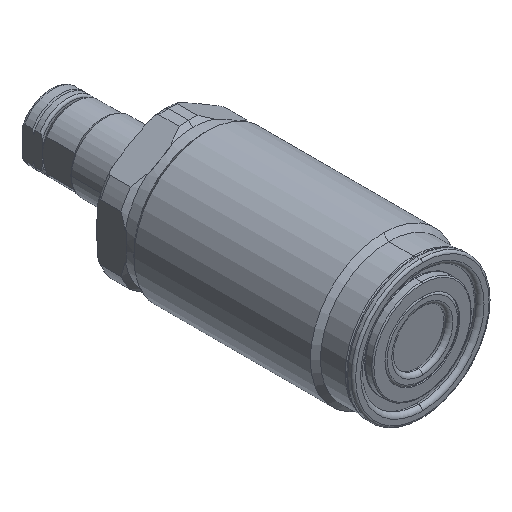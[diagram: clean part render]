
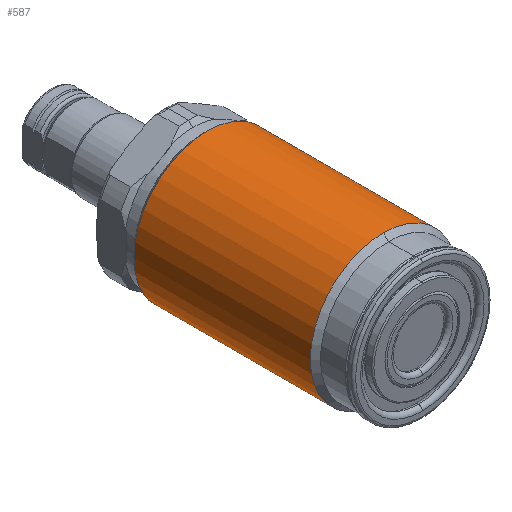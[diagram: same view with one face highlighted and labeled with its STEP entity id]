
A CAD part, isometric view. The second image highlights one B-rep face of the part: STEP entity #587.
In plain terms, the highlighted cylindrical face has radius 13 mm (diameter 26 mm), a full revolution.
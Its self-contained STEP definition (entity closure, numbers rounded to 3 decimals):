
#283=FACE_BOUND('',#952,.T.);
#284=FACE_BOUND('',#953,.T.);
#313=CYLINDRICAL_SURFACE('',#2770,13.);
#361=LINE('',#4078,#469);
#362=LINE('',#4081,#470);
#363=LINE('',#4083,#471);
#364=LINE('',#4088,#472);
#469=VECTOR('',#3200,1.);
#470=VECTOR('',#3203,1.);
#471=VECTOR('',#3204,1.);
#472=VECTOR('',#3207,1.);
#587=ADVANCED_FACE('',(#283,#284),#313,.T.);
#952=EDGE_LOOP('',(#1168,#1169,#1170,#1171,#1172,#1173));
#953=EDGE_LOOP('',(#1174,#1175,#1176,#1177,#1178,#1179));
#1168=ORIENTED_EDGE('',*,*,#2153,.T.);
#1169=ORIENTED_EDGE('',*,*,#2154,.T.);
#1170=ORIENTED_EDGE('',*,*,#2154,.F.);
#1171=ORIENTED_EDGE('',*,*,#2155,.T.);
#1172=ORIENTED_EDGE('',*,*,#2156,.T.);
#1173=ORIENTED_EDGE('',*,*,#2156,.F.);
#1174=ORIENTED_EDGE('',*,*,#2157,.T.);
#1175=ORIENTED_EDGE('',*,*,#2158,.T.);
#1176=ORIENTED_EDGE('',*,*,#2159,.F.);
#1177=ORIENTED_EDGE('',*,*,#2159,.T.);
#1178=ORIENTED_EDGE('',*,*,#2160,.T.);
#1179=ORIENTED_EDGE('',*,*,#2157,.F.);
#1904=VERTEX_POINT('',#4076);
#1905=VERTEX_POINT('',#4077);
#1906=VERTEX_POINT('',#4079);
#1907=VERTEX_POINT('',#4082);
#1908=VERTEX_POINT('',#4084);
#1909=VERTEX_POINT('',#4085);
#1910=VERTEX_POINT('',#4087);
#1911=VERTEX_POINT('',#4089);
#2153=EDGE_CURVE('',#1904,#1905,#2536,.T.);
#2154=EDGE_CURVE('',#1905,#1906,#361,.T.);
#2155=EDGE_CURVE('',#1905,#1904,#2537,.T.);
#2156=EDGE_CURVE('',#1904,#1907,#362,.T.);
#2157=EDGE_CURVE('',#1908,#1909,#363,.T.);
#2158=EDGE_CURVE('',#1909,#1910,#2538,.T.);
#2159=EDGE_CURVE('',#1911,#1910,#364,.T.);
#2160=EDGE_CURVE('',#1910,#1909,#2539,.T.);
#2536=CIRCLE('',#2766,13.);
#2537=CIRCLE('',#2767,13.);
#2538=CIRCLE('',#2768,13.);
#2539=CIRCLE('',#2769,13.);
#2766=AXIS2_PLACEMENT_3D('',#4075,#3198,#3199);
#2767=AXIS2_PLACEMENT_3D('',#4080,#3201,#3202);
#2768=AXIS2_PLACEMENT_3D('',#4086,#3205,#3206);
#2769=AXIS2_PLACEMENT_3D('',#4090,#3208,#3209);
#2770=AXIS2_PLACEMENT_3D('',#4091,#3210,#3211);
#3198=DIRECTION('',(0.,1.,0.));
#3199=DIRECTION('',(0.,0.,1.));
#3200=DIRECTION('',(0.,1.,0.));
#3201=DIRECTION('',(0.,1.,0.));
#3202=DIRECTION('',(0.,0.,1.));
#3203=DIRECTION('',(0.,1.,0.));
#3204=DIRECTION('',(0.,1.,0.));
#3205=DIRECTION('',(0.,-1.,0.));
#3206=DIRECTION('',(0.,0.,1.));
#3207=DIRECTION('',(0.,1.,0.));
#3208=DIRECTION('',(0.,-1.,0.));
#3209=DIRECTION('',(0.,0.,1.));
#3210=DIRECTION('',(0.,1.,0.));
#3211=DIRECTION('',(0.,0.,-1.));
#4075=CARTESIAN_POINT('',(0.,5.6,0.));
#4076=CARTESIAN_POINT('',(0.,5.6,13.));
#4077=CARTESIAN_POINT('',(0.,5.6,-13.));
#4078=CARTESIAN_POINT('',(0.,40.8,-13.));
#4079=CARTESIAN_POINT('',(0.,30.3,-13.));
#4080=CARTESIAN_POINT('',(0.,5.6,0.));
#4081=CARTESIAN_POINT('',(0.,40.8,13.));
#4082=CARTESIAN_POINT('',(0.,30.3,13.));
#4083=CARTESIAN_POINT('',(0.,40.8,13.));
#4084=CARTESIAN_POINT('',(0.,35.3,13.));
#4085=CARTESIAN_POINT('',(0.,36.9,13.));
#4086=CARTESIAN_POINT('',(0.,36.9,0.));
#4087=CARTESIAN_POINT('',(0.,36.9,-13.));
#4088=CARTESIAN_POINT('',(0.,40.8,-13.));
#4089=CARTESIAN_POINT('',(0.,35.3,-13.));
#4090=CARTESIAN_POINT('',(0.,36.9,0.));
#4091=CARTESIAN_POINT('',(0.,40.8,0.));
